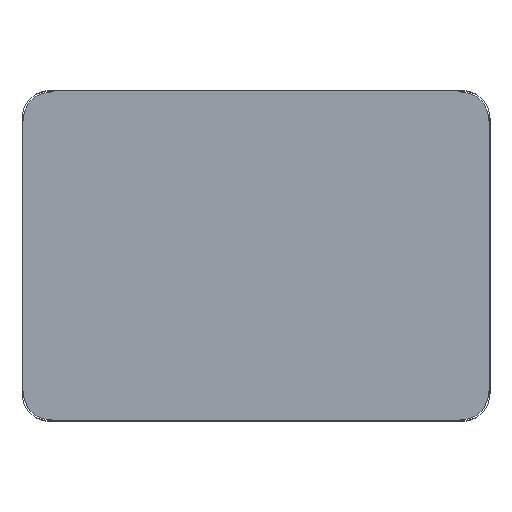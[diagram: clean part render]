
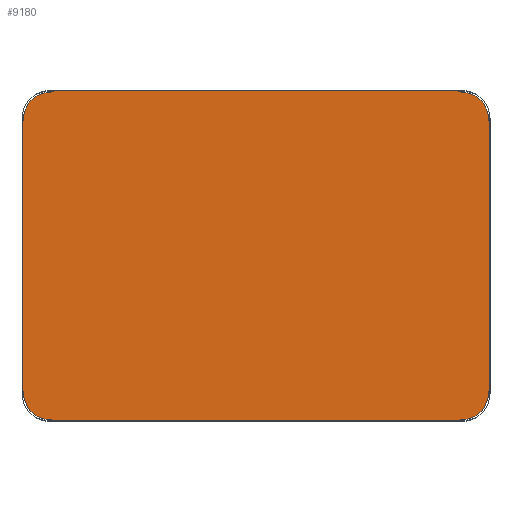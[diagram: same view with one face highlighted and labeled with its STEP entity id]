
A CAD part, top view. The second image highlights one B-rep face of the part: STEP entity #9180.
In plain terms, the highlighted planar face has unit normal (0, 0, 1).
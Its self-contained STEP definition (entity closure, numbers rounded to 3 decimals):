
#3240=CARTESIAN_POINT('',(1825.343,-894.,516.6));
#3250=VERTEX_POINT('',#3240);
#3330=CARTESIAN_POINT('',(1090.657,-894.,516.6));
#3340=VERTEX_POINT('',#3330);
#3370=CARTESIAN_POINT('',(1533.,-894.,516.6));
#3380=DIRECTION('',(1.,0.,0.));
#3390=VECTOR('',#3380,1.);
#3400=LINE('',#3370,#3390);
#3410=EDGE_CURVE('',#3340,#3250,#3400,.T.);
#6620=CARTESIAN_POINT('',(1090.657,-294.,516.6));
#6630=VERTEX_POINT('',#6620);
#6710=CARTESIAN_POINT('',(1825.343,-294.,516.6));
#6720=VERTEX_POINT('',#6710);
#6750=CARTESIAN_POINT('',(1533.,-294.,516.6));
#6760=DIRECTION('',(-1.,0.,0.));
#6770=VECTOR('',#6760,1.);
#6780=LINE('',#6750,#6770);
#6790=EDGE_CURVE('',#6720,#6630,#6780,.T.);
#7050=CARTESIAN_POINT('',(1033.,-351.657,516.6));
#7060=VERTEX_POINT('',#7050);
#7090=CARTESIAN_POINT('',(1033.,-684.,516.6));
#7100=DIRECTION('',(0.,-1.,0.));
#7110=VECTOR('',#7100,1.);
#7120=LINE('',#7090,#7110);
#7130=CARTESIAN_POINT('',(1033.,-836.343,516.6));
#7140=VERTEX_POINT('',#7130);
#7150=EDGE_CURVE('',#7060,#7140,#7120,.T.);
#7260=CARTESIAN_POINT('',(1515.824,-863.75,516.6));
#7270=DIRECTION('',(0.,0.,1.));
#7280=DIRECTION('',(0.5,-0.866,
0.));
#7290=AXIS2_PLACEMENT_3D('',#7260,#7270,#7280);
#7300=PLANE('',#7290);
#7310=CARTESIAN_POINT('',(1883.,-684.,516.6));
#7320=DIRECTION('',(0.,1.,0.));
#7330=VECTOR('',#7320,1.);
#7340=LINE('',#7310,#7330);
#7350=CARTESIAN_POINT('',(1883.,-836.343,516.6));
#7360=VERTEX_POINT('',#7350);
#7370=CARTESIAN_POINT('',(1883.,-351.657,516.6));
#7380=VERTEX_POINT('',#7370);
#7390=EDGE_CURVE('',#7360,#7380,#7340,.T.);
#7400=ORIENTED_EDGE('',*,*,#7390,.T.);
#7410=CARTESIAN_POINT('',(1880.,-836.343,516.6));
#7420=DIRECTION('',(0.,0.,-1.));
#7430=DIRECTION('',(-1.,0.,0.));
#7440=AXIS2_PLACEMENT_3D('',#7410,#7420,#7430);
#7450=CIRCLE('',#7440,3.);
#7460=CARTESIAN_POINT('',(1882.333,-838.229,516.6));
#7470=VERTEX_POINT('',#7460);
#7480=EDGE_CURVE('',#7360,#7470,#7450,.T.);
#7490=ORIENTED_EDGE('',*,*,#7480,.F.);
#7500=CARTESIAN_POINT('',(1887.,-842.,516.6));
#7510=DIRECTION('',(0.,0.,1.));
#7520=DIRECTION('',(-1.,0.,0.));
#7530=AXIS2_PLACEMENT_3D('',#7500,#7510,#7520);
#7540=CIRCLE('',#7530,6.);
#7550=CARTESIAN_POINT('',(1881.,-842.,516.6));
#7560=VERTEX_POINT('',#7550);
#7570=EDGE_CURVE('',#7470,#7560,#7540,.T.);
#7580=ORIENTED_EDGE('',*,*,#7570,.F.);
#7590=CARTESIAN_POINT('',(1831.,-842.,516.6));
#7600=DIRECTION('',(0.,0.,-1.));
#7610=DIRECTION('',(-1.,0.,0.));
#7620=AXIS2_PLACEMENT_3D('',#7590,#7600,#7610);
#7630=CIRCLE('',#7620,50.);
#7640=CARTESIAN_POINT('',(1831.,-892.,516.6));
#7650=VERTEX_POINT('',#7640);
#7660=EDGE_CURVE('',#7560,#7650,#7630,.T.);
#7670=ORIENTED_EDGE('',*,*,#7660,.F.);
#7680=CARTESIAN_POINT('',(1831.,-898.,516.6));
#7690=DIRECTION('',(0.,0.,1.));
#7700=DIRECTION('',(-1.,0.,0.));
#7710=AXIS2_PLACEMENT_3D('',#7680,#7690,#7700);
#7720=CIRCLE('',#7710,6.);
#7730=CARTESIAN_POINT('',(1827.229,-893.333,516.6));
#7740=VERTEX_POINT('',#7730);
#7750=EDGE_CURVE('',#7650,#7740,#7720,.T.);
#7760=ORIENTED_EDGE('',*,*,#7750,.F.);
#7770=CARTESIAN_POINT('',(1825.343,-891.,516.6));
#7780=DIRECTION('',(0.,0.,-1.));
#7790=DIRECTION('',(-1.,0.,0.));
#7800=AXIS2_PLACEMENT_3D('',#7770,#7780,#7790);
#7810=CIRCLE('',#7800,3.);
#7820=EDGE_CURVE('',#7740,#3250,#7810,.T.);
#7830=ORIENTED_EDGE('',*,*,#7820,.F.);
#7840=ORIENTED_EDGE('',*,*,#3410,.T.);
#7850=CARTESIAN_POINT('',(1090.657,-891.,516.6));
#7860=DIRECTION('',(0.,0.,-1.));
#7870=DIRECTION('',(-1.,0.,0.));
#7880=AXIS2_PLACEMENT_3D('',#7850,#7860,#7870);
#7890=CIRCLE('',#7880,3.);
#7900=CARTESIAN_POINT('',(1088.771,-893.333,516.6));
#7910=VERTEX_POINT('',#7900);
#7920=EDGE_CURVE('',#3340,#7910,#7890,.T.);
#7930=ORIENTED_EDGE('',*,*,#7920,.F.);
#7940=CARTESIAN_POINT('',(1085.,-898.,516.6));
#7950=DIRECTION('',(0.,0.,1.));
#7960=DIRECTION('',(-1.,0.,0.));
#7970=AXIS2_PLACEMENT_3D('',#7940,#7950,#7960);
#7980=CIRCLE('',#7970,6.);
#7990=CARTESIAN_POINT('',(1085.,-892.,516.6));
#8000=VERTEX_POINT('',#7990);
#8010=EDGE_CURVE('',#7910,#8000,#7980,.T.);
#8020=ORIENTED_EDGE('',*,*,#8010,.F.);
#8030=CARTESIAN_POINT('',(1085.,-842.,516.6));
#8040=DIRECTION('',(0.,0.,-1.));
#8050=DIRECTION('',(-1.,0.,0.));
#8060=AXIS2_PLACEMENT_3D('',#8030,#8040,#8050);
#8070=CIRCLE('',#8060,50.);
#8080=CARTESIAN_POINT('',(1035.,-842.,516.6));
#8090=VERTEX_POINT('',#8080);
#8100=EDGE_CURVE('',#8000,#8090,#8070,.T.);
#8110=ORIENTED_EDGE('',*,*,#8100,.F.);
#8120=CARTESIAN_POINT('',(1029.,-842.,516.6));
#8130=DIRECTION('',(0.,0.,1.));
#8140=DIRECTION('',(-1.,0.,0.));
#8150=AXIS2_PLACEMENT_3D('',#8120,#8130,#8140);
#8160=CIRCLE('',#8150,6.);
#8170=CARTESIAN_POINT('',(1033.667,-838.229,516.6));
#8180=VERTEX_POINT('',#8170);
#8190=EDGE_CURVE('',#8090,#8180,#8160,.T.);
#8200=ORIENTED_EDGE('',*,*,#8190,.F.);
#8210=CARTESIAN_POINT('',(1036.,-836.343,516.6));
#8220=DIRECTION('',(0.,0.,-1.));
#8230=DIRECTION('',(-1.,0.,0.));
#8240=AXIS2_PLACEMENT_3D('',#8210,#8220,#8230);
#8250=CIRCLE('',#8240,3.);
#8260=EDGE_CURVE('',#8180,#7140,#8250,.T.);
#8270=ORIENTED_EDGE('',*,*,#8260,.F.);
#8280=ORIENTED_EDGE('',*,*,#7150,.T.);
#8290=CARTESIAN_POINT('',(1036.,-351.657,516.6));
#8300=DIRECTION('',(0.,0.,-1.));
#8310=DIRECTION('',(-1.,0.,0.));
#8320=AXIS2_PLACEMENT_3D('',#8290,#8300,#8310);
#8330=CIRCLE('',#8320,3.);
#8340=CARTESIAN_POINT('',(1033.667,-349.771,516.6));
#8350=VERTEX_POINT('',#8340);
#8360=EDGE_CURVE('',#7060,#8350,#8330,.T.);
#8370=ORIENTED_EDGE('',*,*,#8360,.F.);
#8380=CARTESIAN_POINT('',(1029.,-346.,516.6));
#8390=DIRECTION('',(0.,0.,1.));
#8400=DIRECTION('',(-1.,0.,0.));
#8410=AXIS2_PLACEMENT_3D('',#8380,#8390,#8400);
#8420=CIRCLE('',#8410,6.);
#8430=CARTESIAN_POINT('',(1035.,-346.,516.6));
#8440=VERTEX_POINT('',#8430);
#8450=EDGE_CURVE('',#8350,#8440,#8420,.T.);
#8460=ORIENTED_EDGE('',*,*,#8450,.F.);
#8470=CARTESIAN_POINT('',(1085.,-346.,516.6));
#8480=DIRECTION('',(0.,0.,-1.));
#8490=DIRECTION('',(-1.,0.,0.));
#8500=AXIS2_PLACEMENT_3D('',#8470,#8480,#8490);
#8510=CIRCLE('',#8500,50.);
#8520=CARTESIAN_POINT('',(1085.,-296.,516.6));
#8530=VERTEX_POINT('',#8520);
#8540=EDGE_CURVE('',#8440,#8530,#8510,.T.);
#8550=ORIENTED_EDGE('',*,*,#8540,.F.);
#8560=CARTESIAN_POINT('',(1085.,-290.,516.6));
#8570=DIRECTION('',(0.,0.,1.));
#8580=DIRECTION('',(-1.,0.,0.));
#8590=AXIS2_PLACEMENT_3D('',#8560,#8570,#8580);
#8600=CIRCLE('',#8590,6.);
#8610=CARTESIAN_POINT('',(1088.771,-294.667,516.6));
#8620=VERTEX_POINT('',#8610);
#8630=EDGE_CURVE('',#8530,#8620,#8600,.T.);
#8640=ORIENTED_EDGE('',*,*,#8630,.F.);
#8650=CARTESIAN_POINT('',(1090.657,-297.,516.6));
#8660=DIRECTION('',(0.,0.,-1.));
#8670=DIRECTION('',(-1.,0.,0.));
#8680=AXIS2_PLACEMENT_3D('',#8650,#8660,#8670);
#8690=CIRCLE('',#8680,3.);
#8700=EDGE_CURVE('',#8620,#6630,#8690,.T.);
#8710=ORIENTED_EDGE('',*,*,#8700,.F.);
#8720=ORIENTED_EDGE('',*,*,#6790,.T.);
#8730=CARTESIAN_POINT('',(1825.343,-297.,516.6));
#8740=DIRECTION('',(0.,0.,-1.));
#8750=DIRECTION('',(-1.,0.,0.));
#8760=AXIS2_PLACEMENT_3D('',#8730,#8740,#8750);
#8770=CIRCLE('',#8760,3.);
#8780=CARTESIAN_POINT('',(1827.229,-294.667,516.6));
#8790=VERTEX_POINT('',#8780);
#8800=EDGE_CURVE('',#6720,#8790,#8770,.T.);
#8810=ORIENTED_EDGE('',*,*,#8800,.F.);
#8820=CARTESIAN_POINT('',(1831.,-290.,516.6));
#8830=DIRECTION('',(0.,0.,1.));
#8840=DIRECTION('',(-1.,0.,0.));
#8850=AXIS2_PLACEMENT_3D('',#8820,#8830,#8840);
#8860=CIRCLE('',#8850,6.);
#8870=CARTESIAN_POINT('',(1831.,-296.,516.6));
#8880=VERTEX_POINT('',#8870);
#8890=EDGE_CURVE('',#8790,#8880,#8860,.T.);
#8900=ORIENTED_EDGE('',*,*,#8890,.F.);
#8910=CARTESIAN_POINT('',(1831.,-346.,516.6));
#8920=DIRECTION('',(0.,0.,-1.));
#8930=DIRECTION('',(-1.,0.,0.));
#8940=AXIS2_PLACEMENT_3D('',#8910,#8920,#8930);
#8950=CIRCLE('',#8940,50.);
#8960=CARTESIAN_POINT('',(1881.,-346.,516.6));
#8970=VERTEX_POINT('',#8960);
#8980=EDGE_CURVE('',#8880,#8970,#8950,.T.);
#8990=ORIENTED_EDGE('',*,*,#8980,.F.);
#9000=CARTESIAN_POINT('',(1887.,-346.,516.6));
#9010=DIRECTION('',(0.,0.,1.));
#9020=DIRECTION('',(-1.,0.,0.));
#9030=AXIS2_PLACEMENT_3D('',#9000,#9010,#9020);
#9040=CIRCLE('',#9030,6.);
#9050=CARTESIAN_POINT('',(1882.333,-349.771,516.6));
#9060=VERTEX_POINT('',#9050);
#9070=EDGE_CURVE('',#8970,#9060,#9040,.T.);
#9080=ORIENTED_EDGE('',*,*,#9070,.F.);
#9090=CARTESIAN_POINT('',(1880.,-351.657,516.6));
#9100=DIRECTION('',(0.,0.,-1.));
#9110=DIRECTION('',(-1.,0.,0.));
#9120=AXIS2_PLACEMENT_3D('',#9090,#9100,#9110);
#9130=CIRCLE('',#9120,3.);
#9140=EDGE_CURVE('',#9060,#7380,#9130,.T.);
#9150=ORIENTED_EDGE('',*,*,#9140,.F.);
#9160=EDGE_LOOP('',(#9150,#9080,#8990,#8900,#8810,#8720,#8710,#8640,
#8550,#8460,#8370,#8280,#8270,#8200,#8110,#8020,#7930,#7840,#7830,#7760,
#7670,#7580,#7490,#7400));
#9170=FACE_OUTER_BOUND('',#9160,.T.);
#9180=ADVANCED_FACE('',(#9170),#7300,.T.);
